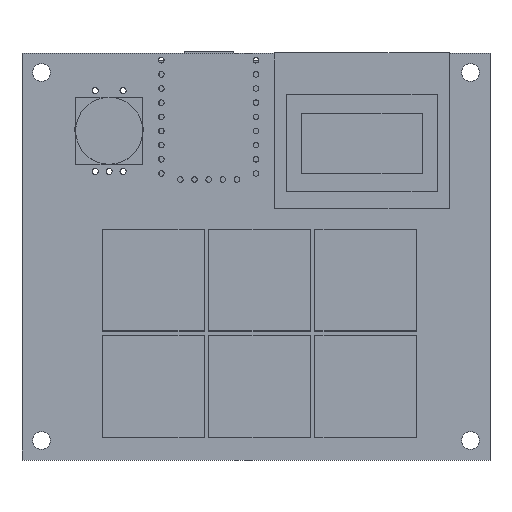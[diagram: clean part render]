
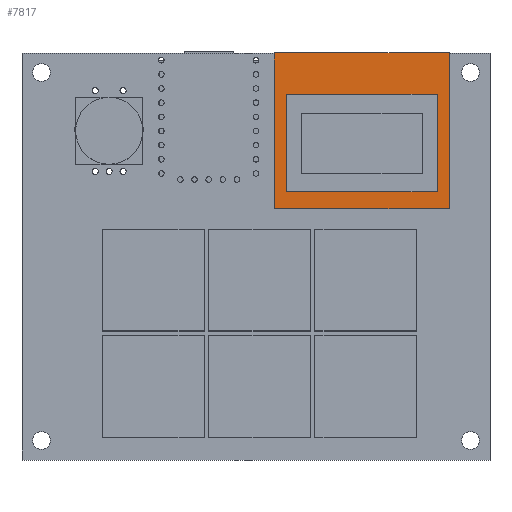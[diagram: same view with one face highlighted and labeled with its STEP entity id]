
A CAD part, top view. The second image highlights one B-rep face of the part: STEP entity #7817.
In plain terms, the highlighted planar face has unit normal (0, 0, 1).
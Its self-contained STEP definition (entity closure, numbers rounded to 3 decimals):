
#7503 = VERTEX_POINT('',#7504);
#7504 = CARTESIAN_POINT('',(45.3,-28.,9.2));
#7511 = PLANE('',#7512);
#7512 = AXIS2_PLACEMENT_3D('',#7513,#7514,#7515);
#7513 = CARTESIAN_POINT('',(45.3,-28.,7.6));
#7514 = DIRECTION('',(1.,0.,0.));
#7515 = DIRECTION('',(0.,0.,1.));
#7523 = PLANE('',#7524);
#7524 = AXIS2_PLACEMENT_3D('',#7525,#7526,#7527);
#7525 = CARTESIAN_POINT('',(45.3,-28.,7.6));
#7526 = DIRECTION('',(0.,1.,0.));
#7527 = DIRECTION('',(0.,0.,1.));
#7564 = VERTEX_POINT('',#7565);
#7565 = CARTESIAN_POINT('',(45.3,0.,9.2));
#7579 = PLANE('',#7580);
#7580 = AXIS2_PLACEMENT_3D('',#7581,#7582,#7583);
#7581 = CARTESIAN_POINT('',(45.3,0.,7.6));
#7582 = DIRECTION('',(0.,1.,0.));
#7583 = DIRECTION('',(0.,0.,1.));
#7591 = EDGE_CURVE('',#7503,#7564,#7592,.T.);
#7592 = SURFACE_CURVE('',#7593,(#7597,#7604),.PCURVE_S1.);
#7593 = LINE('',#7594,#7595);
#7594 = CARTESIAN_POINT('',(45.3,-28.,9.2));
#7595 = VECTOR('',#7596,1.);
#7596 = DIRECTION('',(0.,1.,0.));
#7597 = PCURVE('',#7511,#7598);
#7598 = DEFINITIONAL_REPRESENTATION('',(#7599),#7603);
#7599 = LINE('',#7600,#7601);
#7600 = CARTESIAN_POINT('',(1.6,0.));
#7601 = VECTOR('',#7602,1.);
#7602 = DIRECTION('',(0.,-1.));
#7603 = ( GEOMETRIC_REPRESENTATION_CONTEXT(2) 
PARAMETRIC_REPRESENTATION_CONTEXT() REPRESENTATION_CONTEXT('2D SPACE',''
  ) );
#7604 = PCURVE('',#7605,#7610);
#7605 = PLANE('',#7606);
#7606 = AXIS2_PLACEMENT_3D('',#7607,#7608,#7609);
#7607 = CARTESIAN_POINT('',(45.3,-28.,9.2));
#7608 = DIRECTION('',(0.,0.,1.));
#7609 = DIRECTION('',(1.,0.,0.));
#7610 = DEFINITIONAL_REPRESENTATION('',(#7611),#7615);
#7611 = LINE('',#7612,#7613);
#7612 = CARTESIAN_POINT('',(0.,0.));
#7613 = VECTOR('',#7614,1.);
#7614 = DIRECTION('',(0.,1.));
#7615 = ( GEOMETRIC_REPRESENTATION_CONTEXT(2) 
PARAMETRIC_REPRESENTATION_CONTEXT() REPRESENTATION_CONTEXT('2D SPACE',''
  ) );
#7623 = VERTEX_POINT('',#7624);
#7624 = CARTESIAN_POINT('',(76.7,-28.,9.2));
#7631 = PLANE('',#7632);
#7632 = AXIS2_PLACEMENT_3D('',#7633,#7634,#7635);
#7633 = CARTESIAN_POINT('',(76.7,-28.,7.6));
#7634 = DIRECTION('',(1.,0.,0.));
#7635 = DIRECTION('',(0.,0.,1.));
#7674 = VERTEX_POINT('',#7675);
#7675 = CARTESIAN_POINT('',(76.7,0.,9.2));
#7696 = EDGE_CURVE('',#7623,#7674,#7697,.T.);
#7697 = SURFACE_CURVE('',#7698,(#7702,#7709),.PCURVE_S1.);
#7698 = LINE('',#7699,#7700);
#7699 = CARTESIAN_POINT('',(76.7,-28.,9.2));
#7700 = VECTOR('',#7701,1.);
#7701 = DIRECTION('',(0.,1.,0.));
#7702 = PCURVE('',#7631,#7703);
#7703 = DEFINITIONAL_REPRESENTATION('',(#7704),#7708);
#7704 = LINE('',#7705,#7706);
#7705 = CARTESIAN_POINT('',(1.6,0.));
#7706 = VECTOR('',#7707,1.);
#7707 = DIRECTION('',(0.,-1.));
#7708 = ( GEOMETRIC_REPRESENTATION_CONTEXT(2) 
PARAMETRIC_REPRESENTATION_CONTEXT() REPRESENTATION_CONTEXT('2D SPACE',''
  ) );
#7709 = PCURVE('',#7605,#7710);
#7710 = DEFINITIONAL_REPRESENTATION('',(#7711),#7715);
#7711 = LINE('',#7712,#7713);
#7712 = CARTESIAN_POINT('',(31.4,0.));
#7713 = VECTOR('',#7714,1.);
#7714 = DIRECTION('',(0.,1.));
#7715 = ( GEOMETRIC_REPRESENTATION_CONTEXT(2) 
PARAMETRIC_REPRESENTATION_CONTEXT() REPRESENTATION_CONTEXT('2D SPACE',''
  ) );
#7742 = EDGE_CURVE('',#7503,#7623,#7743,.T.);
#7743 = SURFACE_CURVE('',#7744,(#7748,#7755),.PCURVE_S1.);
#7744 = LINE('',#7745,#7746);
#7745 = CARTESIAN_POINT('',(45.3,-28.,9.2));
#7746 = VECTOR('',#7747,1.);
#7747 = DIRECTION('',(1.,0.,0.));
#7748 = PCURVE('',#7523,#7749);
#7749 = DEFINITIONAL_REPRESENTATION('',(#7750),#7754);
#7750 = LINE('',#7751,#7752);
#7751 = CARTESIAN_POINT('',(1.6,0.));
#7752 = VECTOR('',#7753,1.);
#7753 = DIRECTION('',(0.,1.));
#7754 = ( GEOMETRIC_REPRESENTATION_CONTEXT(2) 
PARAMETRIC_REPRESENTATION_CONTEXT() REPRESENTATION_CONTEXT('2D SPACE',''
  ) );
#7755 = PCURVE('',#7605,#7756);
#7756 = DEFINITIONAL_REPRESENTATION('',(#7757),#7761);
#7757 = LINE('',#7758,#7759);
#7758 = CARTESIAN_POINT('',(0.,0.));
#7759 = VECTOR('',#7760,1.);
#7760 = DIRECTION('',(1.,0.));
#7761 = ( GEOMETRIC_REPRESENTATION_CONTEXT(2) 
PARAMETRIC_REPRESENTATION_CONTEXT() REPRESENTATION_CONTEXT('2D SPACE',''
  ) );
#7789 = EDGE_CURVE('',#7564,#7674,#7790,.T.);
#7790 = SURFACE_CURVE('',#7791,(#7795,#7802),.PCURVE_S1.);
#7791 = LINE('',#7792,#7793);
#7792 = CARTESIAN_POINT('',(45.3,0.,9.2));
#7793 = VECTOR('',#7794,1.);
#7794 = DIRECTION('',(1.,0.,0.));
#7795 = PCURVE('',#7579,#7796);
#7796 = DEFINITIONAL_REPRESENTATION('',(#7797),#7801);
#7797 = LINE('',#7798,#7799);
#7798 = CARTESIAN_POINT('',(1.6,0.));
#7799 = VECTOR('',#7800,1.);
#7800 = DIRECTION('',(0.,1.));
#7801 = ( GEOMETRIC_REPRESENTATION_CONTEXT(2) 
PARAMETRIC_REPRESENTATION_CONTEXT() REPRESENTATION_CONTEXT('2D SPACE',''
  ) );
#7802 = PCURVE('',#7605,#7803);
#7803 = DEFINITIONAL_REPRESENTATION('',(#7804),#7808);
#7804 = LINE('',#7805,#7806);
#7805 = CARTESIAN_POINT('',(0.,28.));
#7806 = VECTOR('',#7807,1.);
#7807 = DIRECTION('',(1.,0.));
#7808 = ( GEOMETRIC_REPRESENTATION_CONTEXT(2) 
PARAMETRIC_REPRESENTATION_CONTEXT() REPRESENTATION_CONTEXT('2D SPACE',''
  ) );
#7817 = ADVANCED_FACE('',(#7818),#7605,.T.);
#7818 = FACE_BOUND('',#7819,.T.);
#7819 = EDGE_LOOP('',(#7820,#7821,#7822,#7823));
#7820 = ORIENTED_EDGE('',*,*,#7591,.F.);
#7821 = ORIENTED_EDGE('',*,*,#7742,.T.);
#7822 = ORIENTED_EDGE('',*,*,#7696,.T.);
#7823 = ORIENTED_EDGE('',*,*,#7789,.F.);
